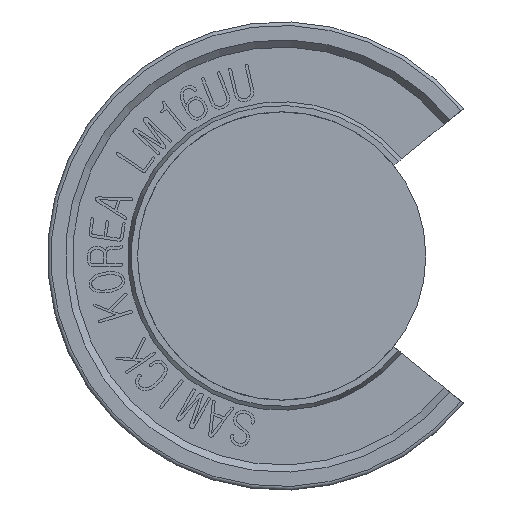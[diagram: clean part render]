
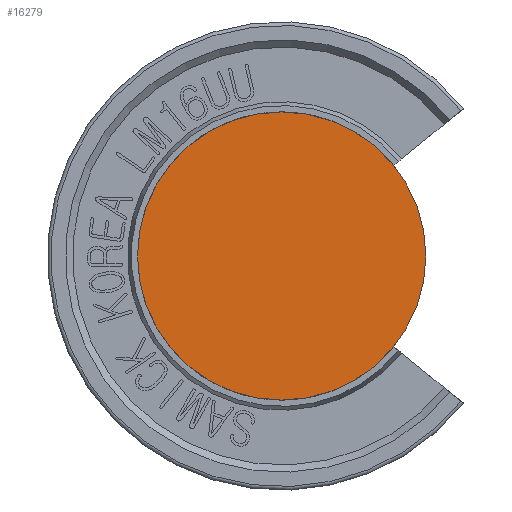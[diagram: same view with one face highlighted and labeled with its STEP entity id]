
A CAD part, front view. The second image highlights one B-rep face of the part: STEP entity #16279.
In plain terms, the highlighted planar face has unit normal (0, -1, 0).
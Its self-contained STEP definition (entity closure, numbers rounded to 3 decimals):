
#53=CIRCLE('',#16564,8.);
#323=PLANE('',#16566);
#1146=FACE_OUTER_BOUND('',#2018,.T.);
#2018=EDGE_LOOP('',(#14043));
#7045=VERTEX_POINT('',#28277);
#9385=EDGE_CURVE('',#7045,#7045,#53,.T.);
#14043=ORIENTED_EDGE('',*,*,#9385,.F.);
#16279=ADVANCED_FACE('',(#1146),#323,.T.);
#16564=AXIS2_PLACEMENT_3D('',#28279,#18229,#18230);
#16566=AXIS2_PLACEMENT_3D('',#28281,#18233,#18234);
#18229=DIRECTION('center_axis',(0.,1.,0.));
#18230=DIRECTION('ref_axis',(1.,0.,0.));
#18233=DIRECTION('center_axis',(0.,-1.,0.));
#18234=DIRECTION('ref_axis',(0.,0.,-1.));
#28277=CARTESIAN_POINT('',(-8.,-43.,0.));
#28279=CARTESIAN_POINT('Origin',(0.,-43.,0.));
#28281=CARTESIAN_POINT('Origin',(0.,-43.,0.));
